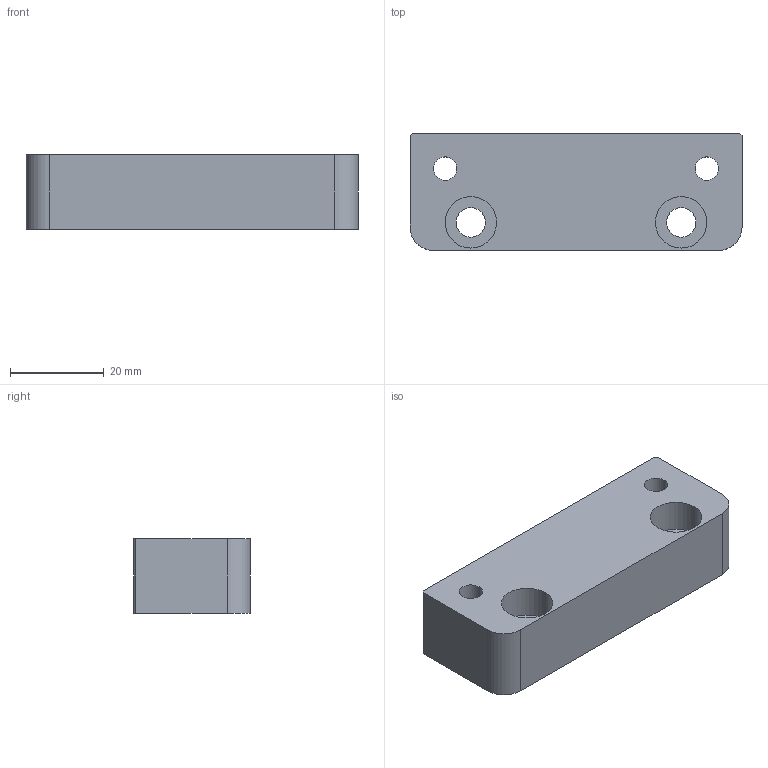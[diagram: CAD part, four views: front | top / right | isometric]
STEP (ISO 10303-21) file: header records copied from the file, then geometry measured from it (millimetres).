
FILE_DESCRIPTION (( 'STEP AP214' ), '1' );
FILE_NAME ('MAM11207 -XA- Spacer Palier a roulement.STEP', '2024-12-09T14:29:13', ( '' ), ( '' ), 'SwSTEP 2.0', 'SolidWorks 2019', '' );
FILE_SCHEMA (( 'AUTOMOTIVE_DESIGN' ));
Length unit declared in the file: millimetre
Products named in the file (1): MAM11207 -XA- Spacer Palier a roulement
Bounding box: 71 x 25 x 16 mm (x, y, z)
Volume: 25704.4 mm3; surface area: 7661.5 mm2
Topology: 1 solids, 1 shells, 24 faces, 60 edges, 40 vertices
Faces by surface type: cylinder 14, plane 10
Entity records: 826 total; most frequent: DIRECTION 138, CARTESIAN_POINT 125, ORIENTED_EDGE 120, EDGE_CURVE 60, AXIS2_PLACEMENT_3D 53, VERTEX_POINT 40, EDGE_LOOP 34, VECTOR 32
